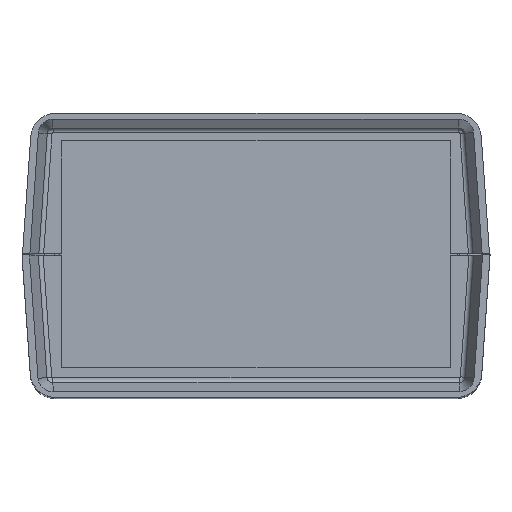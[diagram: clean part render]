
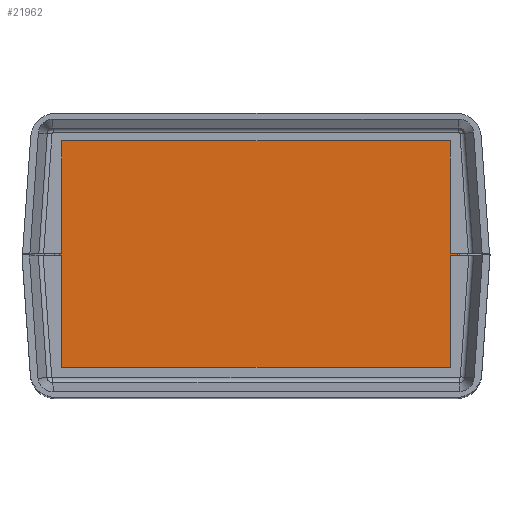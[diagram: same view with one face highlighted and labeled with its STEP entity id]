
A CAD part, top view. The second image highlights one B-rep face of the part: STEP entity #21962.
In plain terms, the highlighted planar face has unit normal (0, 0, 1).
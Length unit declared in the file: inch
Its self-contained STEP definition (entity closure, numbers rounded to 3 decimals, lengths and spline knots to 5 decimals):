
#391 = VERTEX_POINT ( 'NONE', #3589 ) ;
#1857 = CARTESIAN_POINT ( 'NONE',  ( 1.59843, 0.96457, 0.04724 ) ) ;
#2091 = DIRECTION ( 'NONE',  ( 1., 0., 0. ) ) ;
#2444 = ORIENTED_EDGE ( 'NONE', *, *, #10214, .T. ) ;
#3568 = VECTOR ( 'NONE', #2091, 39.37008 ) ;
#3589 = CARTESIAN_POINT ( 'NONE',  ( -1.59843, 0.96457, 0.04724 ) ) ;
#3724 = AXIS2_PLACEMENT_3D ( 'NONE', #23231, #25211, #13298 ) ;
#4754 = DIRECTION ( 'NONE',  ( 0., 1., 0. ) ) ;
#7226 = CARTESIAN_POINT ( 'NONE',  ( -1.59843, 0.96457, 0.04724 ) ) ;
#8119 = ORIENTED_EDGE ( 'NONE', *, *, #10115, .T. ) ;
#8842 = LINE ( 'NONE', #11965, #3568 ) ;
#8850 = LINE ( 'NONE', #7226, #23991 ) ;
#9222 = VERTEX_POINT ( 'NONE', #1857 ) ;
#9379 = PLANE ( 'NONE',  #3724 ) ;
#9621 = EDGE_CURVE ( 'NONE', #391, #22651, #8850, .T. ) ;
#10115 = EDGE_CURVE ( 'NONE', #9222, #391, #20015, .T. ) ;
#10214 = EDGE_CURVE ( 'NONE', #11535, #9222, #22528, .T. ) ;
#10300 = DIRECTION ( 'NONE',  ( -1., 0., 0. ) ) ;
#11373 = CARTESIAN_POINT ( 'NONE',  ( 1.59843, -0.96457, 0.04724 ) ) ;
#11490 = FACE_OUTER_BOUND ( 'NONE', #20091, .T. ) ;
#11535 = VERTEX_POINT ( 'NONE', #11373 ) ;
#11698 = EDGE_CURVE ( 'NONE', #22651, #11535, #8842, .T. ) ;
#11965 = CARTESIAN_POINT ( 'NONE',  ( -1.59843, -0.96457, 0.04724 ) ) ;
#13298 = DIRECTION ( 'NONE',  ( 1., 0., 0. ) ) ;
#14189 = CARTESIAN_POINT ( 'NONE',  ( -1.59843, 0.96457, 0.04724 ) ) ;
#14373 = VECTOR ( 'NONE', #10300, 39.37008 ) ;
#15095 = DIRECTION ( 'NONE',  ( 0., -1., 0. ) ) ;
#17112 = VECTOR ( 'NONE', #4754, 39.37008 ) ;
#20015 = LINE ( 'NONE', #14189, #14373 ) ;
#20091 = EDGE_LOOP ( 'NONE', ( #2444, #8119, #23782, #25113 ) ) ;
#21962 = ADVANCED_FACE ( 'NONE', ( #11490 ), #9379, .T. ) ;
#22008 = CARTESIAN_POINT ( 'NONE',  ( -1.59843, -0.96457, 0.04724 ) ) ;
#22526 = CARTESIAN_POINT ( 'NONE',  ( 1.59843, 0.96457, 0.04724 ) ) ;
#22528 = LINE ( 'NONE', #22526, #17112 ) ;
#22651 = VERTEX_POINT ( 'NONE', #22008 ) ;
#23231 = CARTESIAN_POINT ( 'NONE',  ( 0., 0., 0.04724 ) ) ;
#23782 = ORIENTED_EDGE ( 'NONE', *, *, #9621, .T. ) ;
#23991 = VECTOR ( 'NONE', #15095, 39.37008 ) ;
#25113 = ORIENTED_EDGE ( 'NONE', *, *, #11698, .T. ) ;
#25211 = DIRECTION ( 'NONE',  ( 0., 0., 1. ) ) ;
